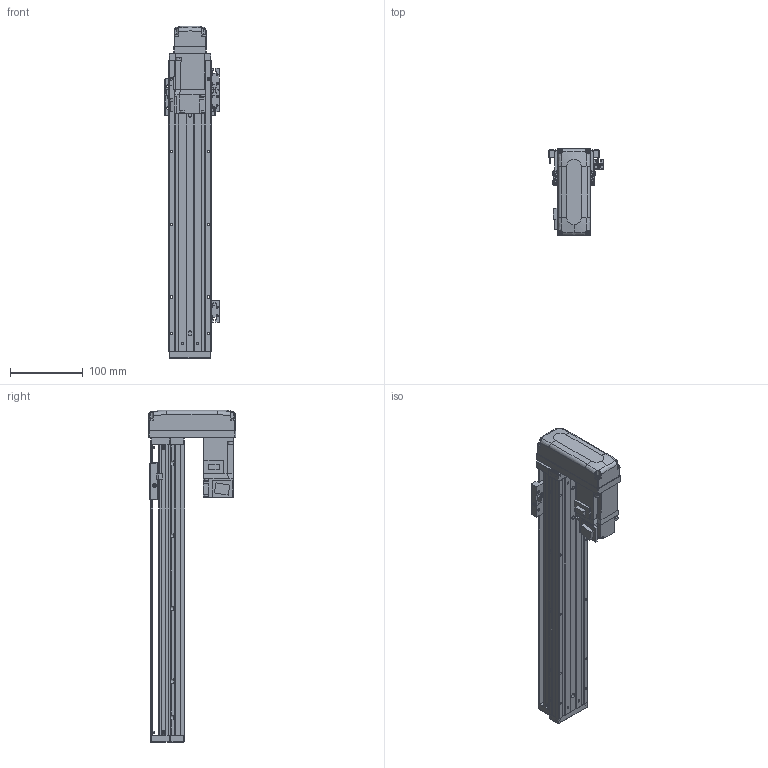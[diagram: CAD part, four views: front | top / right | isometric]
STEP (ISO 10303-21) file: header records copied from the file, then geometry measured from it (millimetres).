
FILE_DESCRIPTION (( 'STEP AP203' ), '1' );
FILE_NAME ('KTHA50-300-BM-M10-C4L.step', '2022-03-19T07:11:05', ( '微软用户' ), ( '微软中国' ), 'SwSTEP 2.0', 'SolidWorks 2020', '' );
FILE_SCHEMA (( 'CONFIG_CONTROL_DESIGN' ));
Length unit declared in the file: millimetre
Products named in the file (18): GBT77-2000 M3×3; HG-KR13（三菱）; KTHA50-001_400; GBT 70.1-M3℅6; CTHA50-015-2_CTHA60-015-2; KTHA50-002; CTHA60-017; CTHA60-033; KTHA50-004; GBT 70.1-M4×12; GBT 70.1-M3×15; KTHA50-005; CTHA60-016; KTHA50-300-BM-M10-C4L; GB¨uT 70.2-M3¡Á6_M3¡Á6; CTHA60-021; EE_SX911P_R; GBT 70.3-M3℅6
Assembly tree (53 placements, depth 2):
  KTHA50-300-BM-M10-C4L
    KTHA50-001_400
    KTHA50-002
    KTHA50-004
    KTHA50-005
    GB¨uT 70.2-M3¡Á6_M3¡Á6  x6
    EE_SX911P_R  x3
    GBT77-2000 M3×3  x6
    GBT 70.1-M3℅6  x6
    CTHA60-017  x3
    GBT 70.1-M4×12  x10
    CTHA60-016  x2
    CTHA60-021  x2
    GBT 70.3-M3℅6  x4
    HG-KR13（三菱）
    CTHA50-015-2_CTHA60-015-2
    CTHA60-033
    GBT 70.1-M3×15  x4
Bounding box: 75.22 x 120 x 457 mm (x, y, z)
Volume: 1027924.3 mm3; surface area: 253062.7 mm2
Topology: 56 solids, 56 shells, 2243 faces, 5295 edges, 3244 vertices
Faces by surface type: plane 1252, cylinder 544, cone 305, torus 100, bspline 26, sphere 16
Entity records: 37589 total; most frequent: CARTESIAN_POINT 7122, DIRECTION 5855, ORIENTED_EDGE 5602, EDGE_CURVE 2801, AXIS2_PLACEMENT_3D 1993, VECTOR 1869, LINE 1869, VERTEX_POINT 1758
